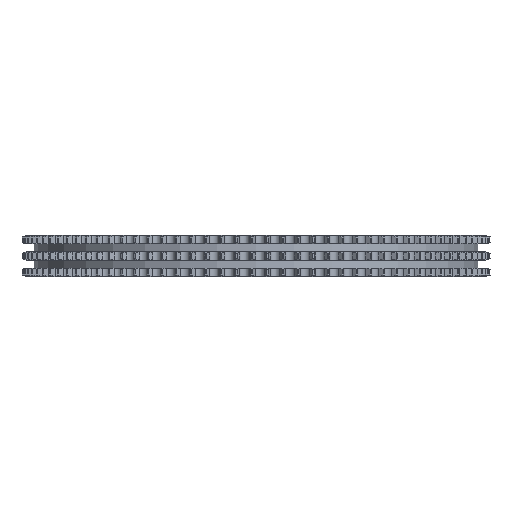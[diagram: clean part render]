
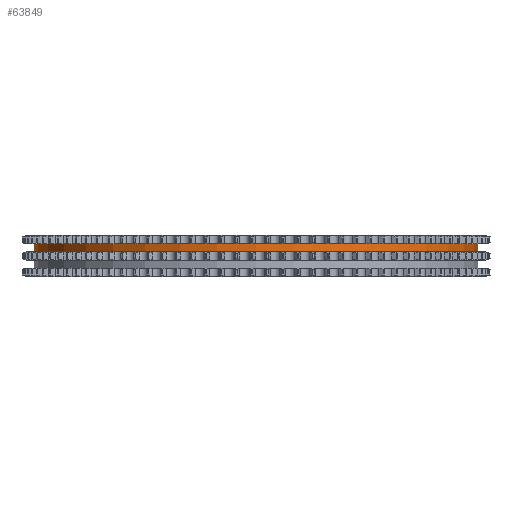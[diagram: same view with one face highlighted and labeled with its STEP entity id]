
A CAD part, left-side view. The second image highlights one B-rep face of the part: STEP entity #63849.
In plain terms, the highlighted cylindrical face has radius 138.042 mm (diameter 276.083 mm), a partial arc.
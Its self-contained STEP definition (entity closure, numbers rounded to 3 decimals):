
#11487=DIRECTION('',(0.,0.,-1.));
#11488=VECTOR('',#11487,4.85);
#11489=CARTESIAN_POINT('',(0.,138.042,7.5));
#11490=LINE('',#11489,#11488);
#11494=CARTESIAN_POINT('',(0.,0.,7.5));
#11495=DIRECTION('',(0.,0.,1.));
#11496=DIRECTION('',(0.,1.,0.));
#11497=AXIS2_PLACEMENT_3D('',#11494,#11495,#11496);
#11502=DIRECTION('',(0.,0.,-1.));
#11503=VECTOR('',#11502,4.85);
#11504=CARTESIAN_POINT('',(0.,-138.042,7.5));
#11505=LINE('',#11504,#11503);
#11509=CARTESIAN_POINT('',(0.,0.,2.65));
#11510=DIRECTION('',(0.,0.,1.));
#11511=DIRECTION('',(0.,1.,0.));
#11512=AXIS2_PLACEMENT_3D('',#11509,#11510,#11511);
#50918=CARTESIAN_POINT('',(0.,138.042,7.5));
#50919=CARTESIAN_POINT('',(0.,138.042,2.65));
#50920=VERTEX_POINT('',#50918);
#50921=VERTEX_POINT('',#50919);
#50922=CARTESIAN_POINT('',(0.,-138.042,7.5));
#50923=CARTESIAN_POINT('',(0.,-138.042,2.65));
#50924=VERTEX_POINT('',#50922);
#50925=VERTEX_POINT('',#50923);
#63837=CARTESIAN_POINT('',(0.,0.,8.25));
#63838=DIRECTION('',(0.,0.,-1.));
#63839=DIRECTION('',(0.,-1.,0.));
#63840=AXIS2_PLACEMENT_3D('',#63837,#63838,#63839);
#63841=CYLINDRICAL_SURFACE('',#63840,138.042);
#63842=ORIENTED_EDGE('',*,*,#63827,.F.);
#63843=ORIENTED_EDGE('',*,*,#63817,.T.);
#63844=ORIENTED_EDGE('',*,*,#63831,.T.);
#63846=ORIENTED_EDGE('',*,*,#63845,.F.);
#63847=EDGE_LOOP('',(#63842,#63843,#63844,#63846));
#63848=FACE_OUTER_BOUND('',#63847,.F.);
#63849=ADVANCED_FACE('',(#63848),#63841,.T.);
#11498=CIRCLE('',#11497,138.042);
#11513=CIRCLE('',#11512,138.042);
#63817=EDGE_CURVE('',#50920,#50924,#11498,.T.);
#63827=EDGE_CURVE('',#50920,#50921,#11490,.T.);
#63831=EDGE_CURVE('',#50924,#50925,#11505,.T.);
#63845=EDGE_CURVE('',#50921,#50925,#11513,.T.);
